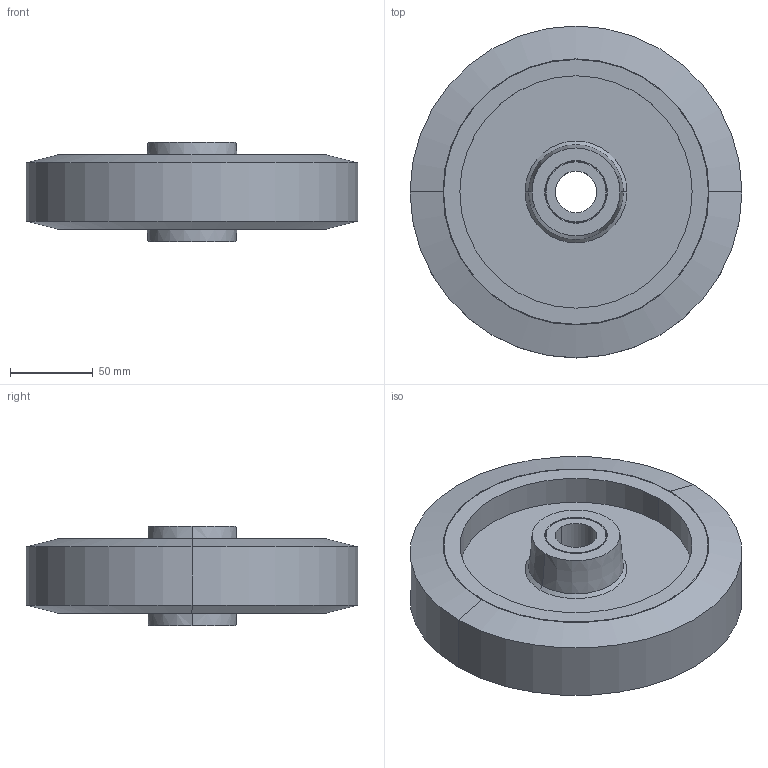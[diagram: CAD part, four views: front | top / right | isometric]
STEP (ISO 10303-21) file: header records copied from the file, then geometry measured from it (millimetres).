
FILE_DESCRIPTION (( 'STEP AP203' ), '1' );
FILE_NAME ('roue_poubelle.STEP', '2008-11-03T11:13:29', ( 'Thomas Merta' ), ( 'SBS Sondermaschinen GmbH' ), 'SwSTEP 2.0', 'SolidWorks 2008', '' );
FILE_SCHEMA (( 'CONFIG_CONTROL_DESIGN' ));
Length unit declared in the file: millimetre
Products named in the file (1): roue_poubelle
Bounding box: 200 x 200 x 60 mm (x, y, z)
Volume: 907074.2 mm3; surface area: 121788.6 mm2
Topology: 1 solids, 2 shells, 50 faces, 100 edges, 60 vertices
Faces by surface type: cone 28, cylinder 12, plane 10
Entity records: 1387 total; most frequent: DIRECTION 262, CARTESIAN_POINT 211, ORIENTED_EDGE 200, AXIS2_PLACEMENT_3D 111, EDGE_CURVE 100, VERTEX_POINT 60, EDGE_LOOP 60, CIRCLE 60
